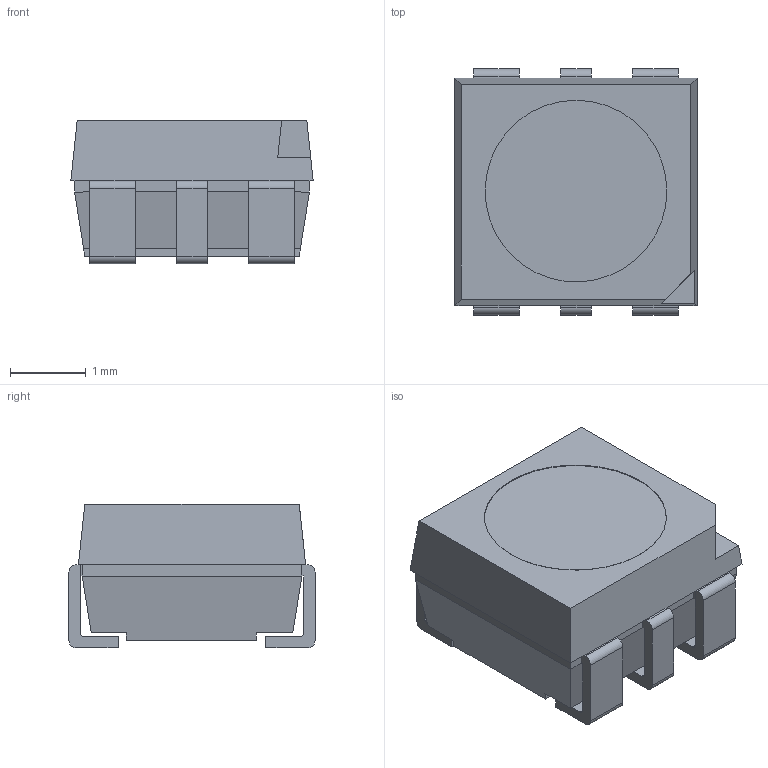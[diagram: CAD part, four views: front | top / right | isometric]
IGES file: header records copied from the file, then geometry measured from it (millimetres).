
Start section: 3D InterOp IGES (Version 20 0 3), Spatial Corp. Copyright (c) 1999-2007.
Global section: file name: D6A-SKG.igs; native system: Spatial Corp.; preprocessor: 3D InterOp ACIS/IGES; author: Noname; organization: Noname; date: 20190920.154006; units: millimetre
Bounding box: 3.2 x 3.25 x 1.9 mm (x, y, z)
Surface area: 51.7 mm2 (no closed solid volume)
Topology: 0 solids, 0 shells, 124 faces, 668 edges, 668 vertices
Faces by surface type: extrusion 100, revolution 24
